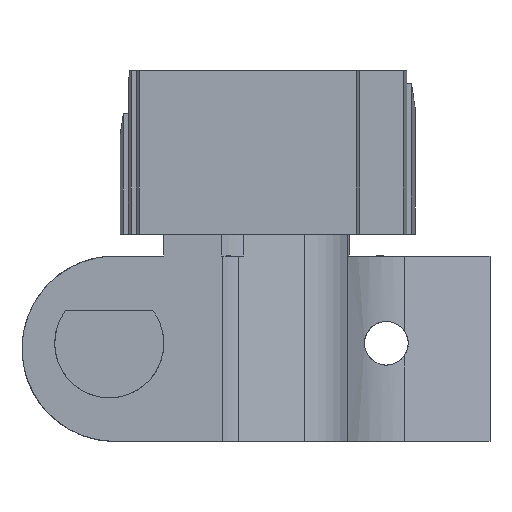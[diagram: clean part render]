
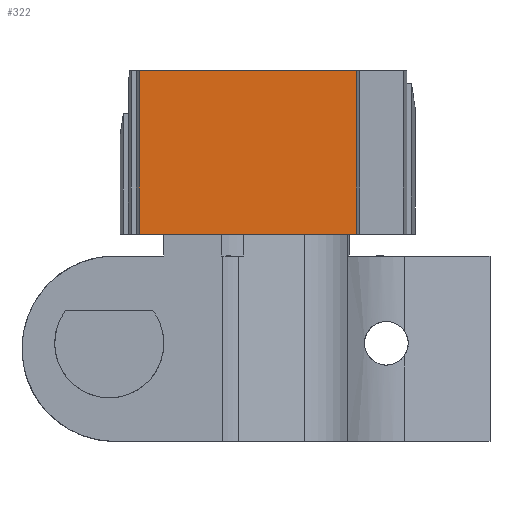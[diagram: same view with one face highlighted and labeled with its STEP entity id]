
A CAD part, front view. The second image highlights one B-rep face of the part: STEP entity #322.
In plain terms, the highlighted planar face has unit normal (0, -1, 0).
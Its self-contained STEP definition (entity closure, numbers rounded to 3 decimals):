
#270 = ORIENTED_EDGE ( 'NONE', *, *, #399, .T. ) ;
#303 = ORIENTED_EDGE ( 'NONE', *, *, #345, .T. ) ;
#315 = VERTEX_POINT ( 'NONE', #2782 ) ;
#321 = VERTEX_POINT ( 'NONE', #2773 ) ;
#322 = ADVANCED_FACE ( 'NONE', ( #2772 ), #2749, .T. ) ;
#323 = VERTEX_POINT ( 'NONE', #2776 ) ;
#328 = VERTEX_POINT ( 'NONE', #2743 ) ;
#337 = ORIENTED_EDGE ( 'NONE', *, *, #341, .T. ) ;
#341 = EDGE_CURVE ( 'NONE', #323, #321, #2803, .T. ) ;
#345 = EDGE_CURVE ( 'NONE', #328, #315, #2849, .T. ) ;
#346 = ORIENTED_EDGE ( 'NONE', *, *, #354, .T. ) ;
#354 = EDGE_CURVE ( 'NONE', #321, #328, #2828, .T. ) ;
#399 = EDGE_CURVE ( 'NONE', #315, #323, #2667, .T. ) ;
#400 = EDGE_LOOP ( 'NONE', ( #346, #303, #270, #337 ) ) ;
#2588 = VECTOR ( 'NONE', #2594, 1000. ) ;
#2594 = DIRECTION ( 'NONE',  ( 0., 0., -1. ) ) ;
#2597 = CARTESIAN_POINT ( 'NONE',  ( -10.453, -31.531, 33.1 ) ) ;
#2636 = VECTOR ( 'NONE', #2646, 1000. ) ;
#2646 = DIRECTION ( 'NONE',  ( -1., 0., 0. ) ) ;
#2647 = CARTESIAN_POINT ( 'NONE',  ( 9.435, -31.531, 48.1 ) ) ;
#2667 = LINE ( 'NONE', #2647, #2636 ) ;
#2743 = CARTESIAN_POINT ( 'NONE',  ( 9.435, -31.531, 33.1 ) ) ;
#2747 = DIRECTION ( 'NONE',  ( 0., 0., -1. ) ) ;
#2748 = DIRECTION ( 'NONE',  ( 0., -1., 0. ) ) ;
#2749 = PLANE ( 'NONE',  #2764 ) ;
#2764 = AXIS2_PLACEMENT_3D ( 'NONE', #2781, #2748, #2747 ) ;
#2772 = FACE_OUTER_BOUND ( 'NONE', #400, .T. ) ;
#2773 = CARTESIAN_POINT ( 'NONE',  ( -10.453, -31.531, 33.1 ) ) ;
#2776 = CARTESIAN_POINT ( 'NONE',  ( -10.453, -31.531, 48.1 ) ) ;
#2781 = CARTESIAN_POINT ( 'NONE',  ( 9.435, -31.531, 33.1 ) ) ;
#2782 = CARTESIAN_POINT ( 'NONE',  ( 9.435, -31.531, 48.1 ) ) ;
#2803 = LINE ( 'NONE', #2597, #2588 ) ;
#2825 = DIRECTION ( 'NONE',  ( 1., 0., 0. ) ) ;
#2826 = VECTOR ( 'NONE', #2825, 1000. ) ;
#2827 = CARTESIAN_POINT ( 'NONE',  ( 9.435, -31.531, 33.1 ) ) ;
#2828 = LINE ( 'NONE', #2827, #2826 ) ;
#2846 = DIRECTION ( 'NONE',  ( 0., 0., 1. ) ) ;
#2847 = VECTOR ( 'NONE', #2846, 1000. ) ;
#2848 = CARTESIAN_POINT ( 'NONE',  ( 9.435, -31.531, 33.1 ) ) ;
#2849 = LINE ( 'NONE', #2848, #2847 ) ;
